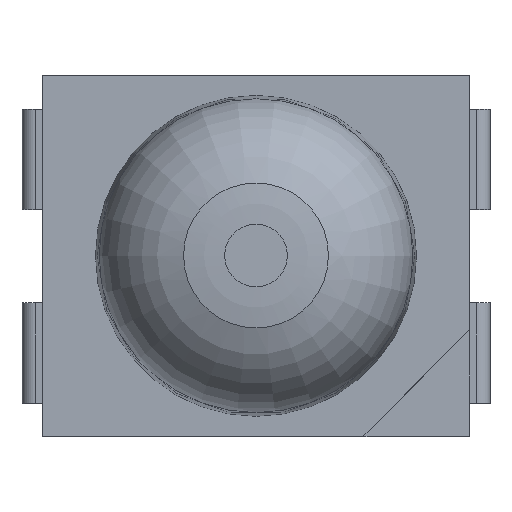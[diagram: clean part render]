
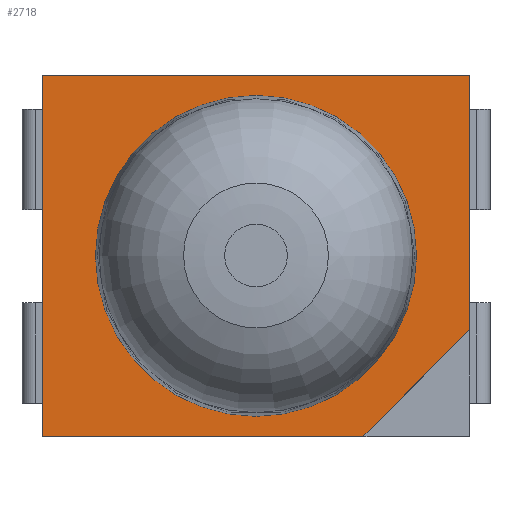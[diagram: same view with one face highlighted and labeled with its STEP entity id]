
A CAD part, top view. The second image highlights one B-rep face of the part: STEP entity #2718.
In plain terms, the highlighted planar face has unit normal (0, 0, 1).
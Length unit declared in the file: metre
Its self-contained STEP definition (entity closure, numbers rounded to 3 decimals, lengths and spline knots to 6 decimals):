
#119=CIRCLE('',#2917,0.0012);
#816=ORIENTED_EDGE('',*,*,#1275,.F.);
#817=ORIENTED_EDGE('',*,*,#1276,.T.);
#818=ORIENTED_EDGE('',*,*,#1277,.T.);
#819=ORIENTED_EDGE('',*,*,#1278,.F.);
#820=ORIENTED_EDGE('',*,*,#1279,.F.);
#821=ORIENTED_EDGE('',*,*,#1280,.T.);
#1275=EDGE_CURVE('',#1553,#1553,#119,.T.);
#1276=EDGE_CURVE('',#1554,#1555,#1830,.T.);
#1277=EDGE_CURVE('',#1555,#1556,#1831,.T.);
#1278=EDGE_CURVE('',#1557,#1556,#1832,.T.);
#1279=EDGE_CURVE('',#1558,#1557,#1833,.T.);
#1280=EDGE_CURVE('',#1558,#1554,#1834,.T.);
#1553=VERTEX_POINT('',#4541);
#1554=VERTEX_POINT('',#4543);
#1555=VERTEX_POINT('',#4544);
#1556=VERTEX_POINT('',#4546);
#1557=VERTEX_POINT('',#4548);
#1558=VERTEX_POINT('',#4550);
#1830=LINE('',#4542,#2114);
#1831=LINE('',#4545,#2115);
#1832=LINE('',#4547,#2116);
#1833=LINE('',#4549,#2117);
#1834=LINE('',#4551,#2118);
#2114=VECTOR('',#3432,1.);
#2115=VECTOR('',#3433,1.);
#2116=VECTOR('',#3434,1.);
#2117=VECTOR('',#3435,1.);
#2118=VECTOR('',#3436,1.);
#2301=EDGE_LOOP('',(#816));
#2302=EDGE_LOOP('',(#817,#818,#819,#820,#821));
#2467=FACE_BOUND('',#2301,.T.);
#2468=FACE_BOUND('',#2302,.T.);
#2579=PLANE('',#2916);
#2718=ADVANCED_FACE('',(#2467,#2468),#2579,.T.);
#2916=AXIS2_PLACEMENT_3D('',#4539,#3428,#3429);
#2917=AXIS2_PLACEMENT_3D('',#4540,#3430,#3431);
#3428=DIRECTION('',(0.,0.,1.));
#3429=DIRECTION('',(1.,0.,0.));
#3430=DIRECTION('',(0.,0.,1.));
#3431=DIRECTION('',(0.,-1.,0.));
#3432=DIRECTION('',(0.,-1.,0.));
#3433=DIRECTION('',(0.707,-0.707,0.));
#3434=DIRECTION('',(-1.,0.,0.));
#3435=DIRECTION('',(0.,-1.,0.));
#3436=DIRECTION('',(-1.,0.,0.));
#4539=CARTESIAN_POINT('',(0.,0.,0.00125));
#4540=CARTESIAN_POINT('',(0.,0.,0.00125));
#4541=CARTESIAN_POINT('',(0.,-0.0012,0.00125));
#4542=CARTESIAN_POINT('',(-0.00135,0.,0.00125));
#4543=CARTESIAN_POINT('',(-0.00135,0.0016,0.00125));
#4544=CARTESIAN_POINT('',(-0.00135,-0.0008,0.00125));
#4545=CARTESIAN_POINT('',(-0.00095,-0.0012,0.00125));
#4546=CARTESIAN_POINT('',(-0.00055,-0.0016,0.00125));
#4547=CARTESIAN_POINT('',(0.,-0.0016,0.00125));
#4548=CARTESIAN_POINT('',(0.00135,-0.0016,0.00125));
#4549=CARTESIAN_POINT('',(0.00135,0.,0.00125));
#4550=CARTESIAN_POINT('',(0.00135,0.0016,0.00125));
#4551=CARTESIAN_POINT('',(0.,0.0016,0.00125));
